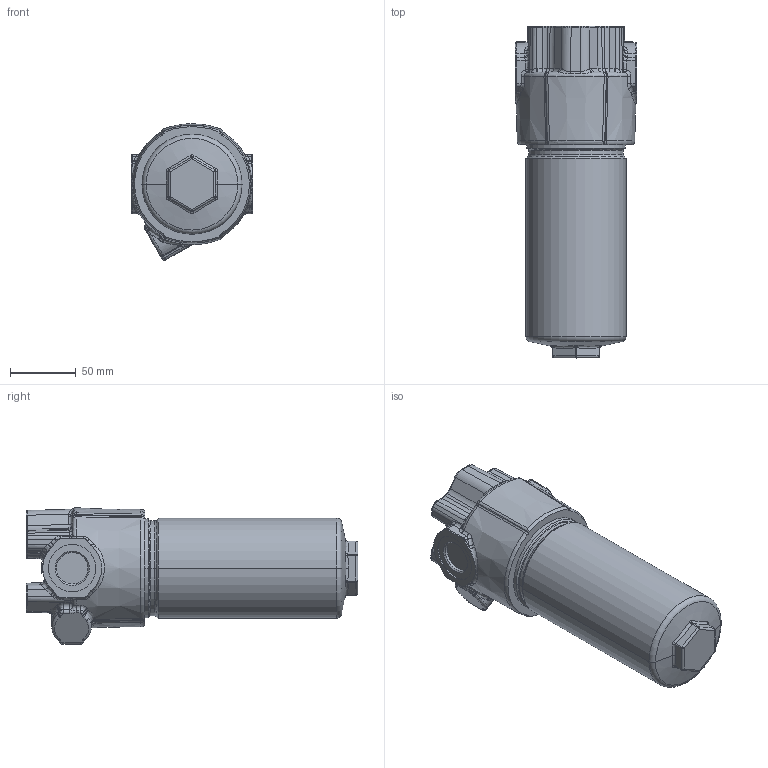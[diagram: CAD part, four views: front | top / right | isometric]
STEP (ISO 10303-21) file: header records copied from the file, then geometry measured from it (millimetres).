
FILE_DESCRIPTION((''),'2;1');
FILE_NAME('1000143779','2019-05-23T',('a.budig'),(''),'PRO/ENGINEER BY PARAMETRIC TECHNOLOGY CORPORATION, 2015110','PRO/ENGINEER BY PARAMETRIC TECHNOLOGY CORPORATION, 2015110','');
FILE_SCHEMA(('AUTOMOTIVE_DESIGN { 1 0 10303 214 1 1 1 1 }'));
Length unit declared in the file: millimetre
Products named in the file (1): 1000143779
Bounding box: 92 x 252 x 103.67 mm (x, y, z)
Volume: 1210603.2 mm3; surface area: 79114.6 mm2
Topology: 1 solids, 1 shells, 571 faces, 1380 edges, 785 vertices
Faces by surface type: cylinder 188, bspline 185, plane 90, torus 46, sphere 32, cone 30
Entity records: 31838 total; most frequent: CARTESIAN_POINT 12277, ORIENTED_EDGE 2686, DIRECTION 2038, PRESENTATION_STYLE_ASSIGNMENT 1860, STYLED_ITEM 1344, CURVE_STYLE 1343, EDGE_CURVE 1343, AXIS2_PLACEMENT_3D 824
